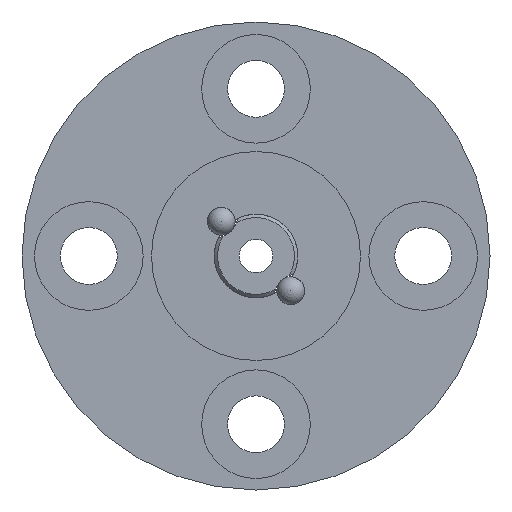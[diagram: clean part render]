
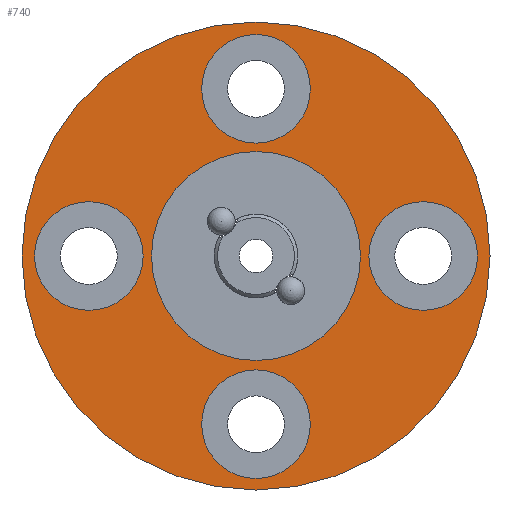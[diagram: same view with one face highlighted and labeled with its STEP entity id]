
A CAD part, left-side view. The second image highlights one B-rep face of the part: STEP entity #740.
In plain terms, the highlighted planar face has unit normal (-1, 0, 0).
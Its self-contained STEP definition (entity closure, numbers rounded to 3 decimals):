
#45=PLANE('',#820);
#80=CIRCLE('',#818,14.);
#82=CIRCLE('',#821,3.25);
#83=CIRCLE('',#822,3.25);
#84=CIRCLE('',#823,3.25);
#85=CIRCLE('',#824,3.25);
#86=CIRCLE('',#825,6.25);
#141=ORIENTED_EDGE('',*,*,#313,.T.);
#142=ORIENTED_EDGE('',*,*,#314,.T.);
#143=ORIENTED_EDGE('',*,*,#315,.T.);
#144=ORIENTED_EDGE('',*,*,#316,.T.);
#145=ORIENTED_EDGE('',*,*,#317,.T.);
#146=ORIENTED_EDGE('',*,*,#311,.T.);
#311=EDGE_CURVE('',#397,#397,#80,.F.);
#313=EDGE_CURVE('',#399,#399,#82,.T.);
#314=EDGE_CURVE('',#400,#400,#83,.T.);
#315=EDGE_CURVE('',#401,#401,#84,.T.);
#316=EDGE_CURVE('',#402,#402,#85,.T.);
#317=EDGE_CURVE('',#403,#403,#86,.T.);
#397=VERTEX_POINT('',#1172);
#399=VERTEX_POINT('',#1177);
#400=VERTEX_POINT('',#1179);
#401=VERTEX_POINT('',#1181);
#402=VERTEX_POINT('',#1183);
#403=VERTEX_POINT('',#1185);
#486=EDGE_LOOP('',(#141));
#487=EDGE_LOOP('',(#142));
#488=EDGE_LOOP('',(#143));
#489=EDGE_LOOP('',(#144));
#490=EDGE_LOOP('',(#145));
#491=EDGE_LOOP('',(#146));
#602=FACE_BOUND('',#486,.T.);
#603=FACE_BOUND('',#487,.T.);
#604=FACE_BOUND('',#488,.T.);
#605=FACE_BOUND('',#489,.T.);
#606=FACE_BOUND('',#490,.T.);
#607=FACE_BOUND('',#491,.T.);
#740=ADVANCED_FACE('',(#602,#603,#604,#605,#606,#607),#45,.F.);
#818=AXIS2_PLACEMENT_3D('',#1171,#934,#935);
#820=AXIS2_PLACEMENT_3D('',#1175,#938,#939);
#821=AXIS2_PLACEMENT_3D('',#1176,#940,#941);
#822=AXIS2_PLACEMENT_3D('',#1178,#942,#943);
#823=AXIS2_PLACEMENT_3D('',#1180,#944,#945);
#824=AXIS2_PLACEMENT_3D('',#1182,#946,#947);
#825=AXIS2_PLACEMENT_3D('',#1184,#948,#949);
#934=DIRECTION('',(1.,0.,0.));
#935=DIRECTION('',(0.,0.,-1.));
#938=DIRECTION('',(1.,0.,0.));
#939=DIRECTION('',(0.,0.,-1.));
#940=DIRECTION('',(1.,0.,0.));
#941=DIRECTION('',(0.,0.,1.));
#942=DIRECTION('',(1.,0.,0.));
#943=DIRECTION('',(0.,0.,1.));
#944=DIRECTION('',(1.,0.,0.));
#945=DIRECTION('',(0.,0.,-1.));
#946=DIRECTION('',(1.,0.,0.));
#947=DIRECTION('',(0.,-1.,0.));
#948=DIRECTION('',(1.,0.,0.));
#949=DIRECTION('',(0.,0.,-1.));
#1171=CARTESIAN_POINT('',(-10.5,0.,0.));
#1172=CARTESIAN_POINT('',(-10.5,0.,-14.));
#1175=CARTESIAN_POINT('',(-10.5,14.5,0.));
#1176=CARTESIAN_POINT('',(-10.5,10.,0.));
#1177=CARTESIAN_POINT('',(-10.5,10.,3.25));
#1178=CARTESIAN_POINT('',(-10.5,-10.,0.));
#1179=CARTESIAN_POINT('',(-10.5,-10.,3.25));
#1180=CARTESIAN_POINT('',(-10.5,0.,-10.064));
#1181=CARTESIAN_POINT('',(-10.5,0.,-13.314));
#1182=CARTESIAN_POINT('',(-10.5,0.,10.));
#1183=CARTESIAN_POINT('',(-10.5,-3.25,10.));
#1184=CARTESIAN_POINT('',(-10.5,0.,0.));
#1185=CARTESIAN_POINT('',(-10.5,0.,-6.25));
